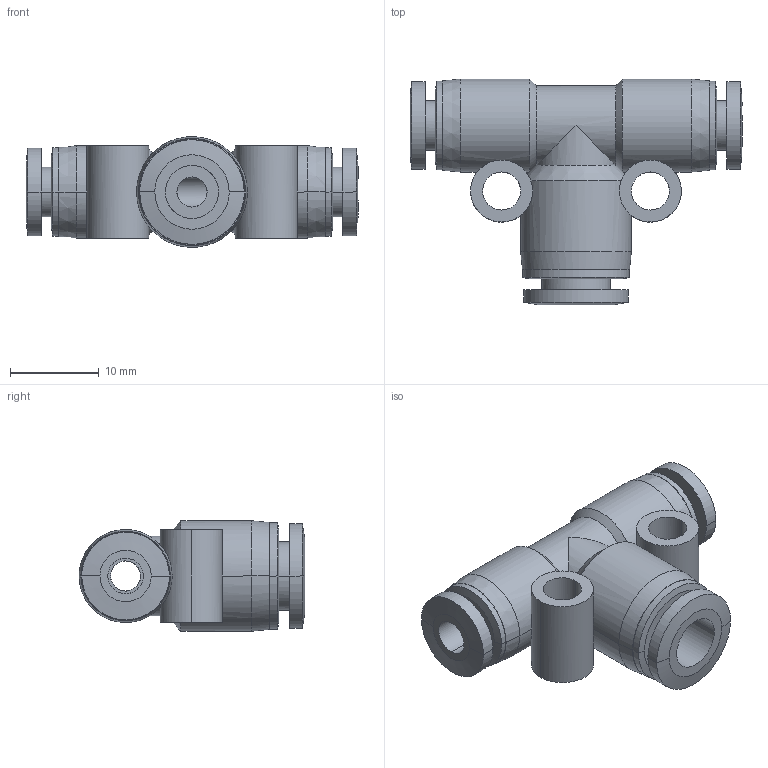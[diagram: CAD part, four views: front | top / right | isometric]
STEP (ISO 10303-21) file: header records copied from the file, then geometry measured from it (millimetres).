
FILE_DESCRIPTION (( 'STEP AP203' ), '1' );
FILE_NAME ('FRT06-04.STEP', '2020-05-12T19:23:54', ( '' ), ( '' ), 'SwSTEP 2.0', 'SolidWorks 2019', '' );
FILE_SCHEMA (( 'CONFIG_CONTROL_DESIGN' ));
Length unit declared in the file: millimetre
Products named in the file (1): FRT06-04
Bounding box: 37.5 x 25.5 x 12.5 mm (x, y, z)
Volume: 4066.1 mm3; surface area: 3637.1 mm2
Topology: 1 solids, 1 shells, 90 faces, 203 edges, 124 vertices
Faces by surface type: cylinder 47, cone 24, plane 19
Entity records: 4843 total; most frequent: CARTESIAN_POINT 3005, ORIENTED_EDGE 406, DIRECTION 255, EDGE_CURVE 203, B_SPLINE_CURVE_WITH_KNOTS 130, VERTEX_POINT 124, EDGE_LOOP 111, AXIS2_PLACEMENT_3D 91
